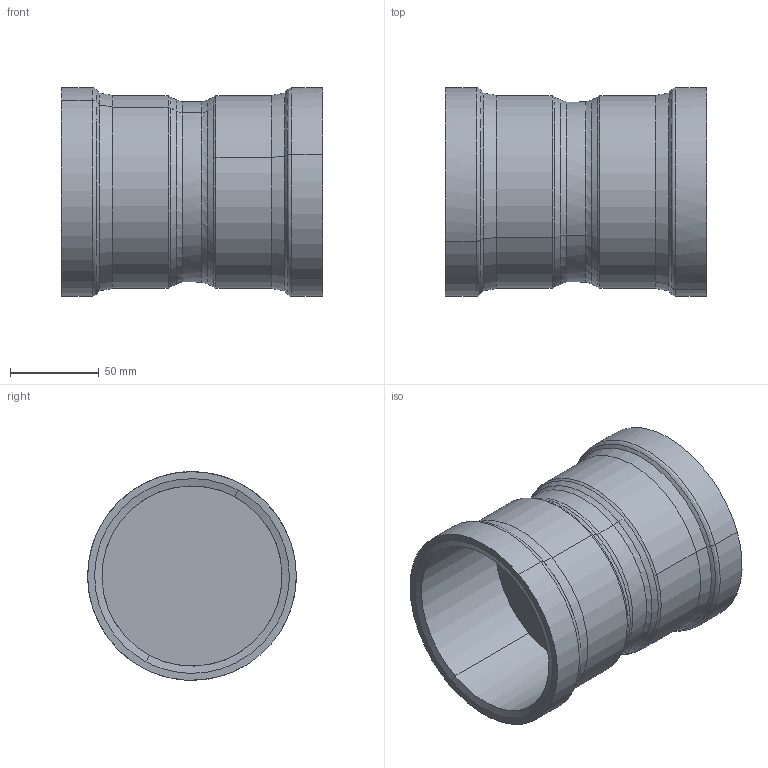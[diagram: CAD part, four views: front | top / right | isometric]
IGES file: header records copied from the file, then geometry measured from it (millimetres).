
Start section: 3D InterOp IGES (Version 25 0 1), Spatial Corp. Copyright (c) 1999-2007.
Global section: file name: pim0004427.igs; native system: Spatial Corp.; preprocessor: 3D InterOp ACIS/IGES; author: Cad-Pim; organization: TransMagic, Inc.; date: 20150430.070120; units: millimetre
Bounding box: 147 x 117.49 x 117.49 mm (x, y, z)
Volume: 435884.5 mm3; surface area: 111854 mm2
Topology: 1 solids, 1 shells, 46 faces, 118 edges, 76 vertices
Faces by surface type: bspline 16, cone 16, cylinder 14
